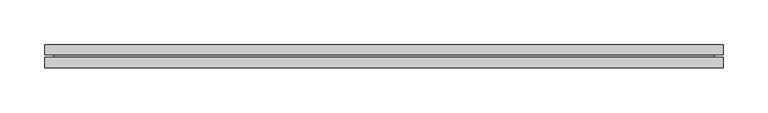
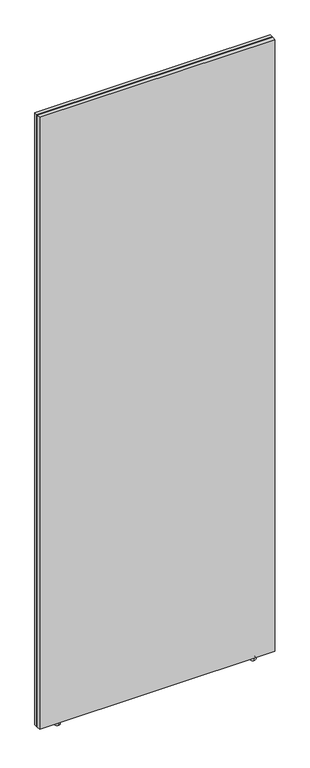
"""IFC4 building model written with IfcOpenShell, lengths in millimetres: furniture geometry, Geiger_GeigerOneCasegoods_WallFrameStandardApplication : 30Wx1Dx82.5H."""

from ifc_helpers import new_model, si_unit, point, frame, origin, place, context, project, spatial, circle_curve, ellipse_curve, trimmed, faceted_brep, source, transform, mapped, element, save
from ifc_brep_helpers import plane_surface, cylinder_surface, revolved_surface, advanced_brep


def furniture_ab4901f7(model_context):
    return source(origin(), model_context, "Body", "SolidModel", [
        faceted_brep([(762.0, -26.0, 12.7), (762.0, -26.0, 2108.2), (0.0, -26.0, 2108.2), (0.0, -26.0, 12.7), (762.0, 0.0, 2108.2), (762.0, 0.0, 12.7), (0.0, 0.0, 12.7), (0.0, 0.0, 2108.2), (762.0, -14.5, 2108.2), (762.0, -14.5, 12.7), (751.0, -11.5, 2097.2), (751.0, -14.5, 2097.2), (751.0, -14.5, 23.7), (751.0, -11.5, 23.7), (762.0, -11.5, 2108.2), (762.0, -11.5, 12.7), (0.0, -14.5, 12.7), (11.0, -14.5, 23.7), (11.0, -11.5, 23.7), (0.0, -11.5, 12.7), (0.0, -14.5, 2108.2), (11.0, -14.5, 2097.2), (11.0, -11.5, 2097.2), (0.0, -11.5, 2108.2)], [[[0, 1, 2, 3]], [[4, 5, 6, 7]], [[8, 1, 0, 9]], [[10, 11, 12, 13]], [[4, 14, 15, 5]], [[9, 0, 3, 16]], [[13, 12, 17, 18]], [[5, 15, 19, 6]], [[16, 3, 2, 20]], [[18, 17, 21, 22]], [[6, 19, 23, 7]], [[1, 8, 20, 2]], [[8, 9, 16, 20], [12, 11, 21, 17]], [[11, 10, 22, 21]], [[15, 14, 23, 19], [10, 13, 18, 22]], [[14, 4, 7, 23]]]),
        advanced_brep(
        [(698.0, -13.0, 0.0), (698.0, -8.2612423, 0.0), (698.0, -17.7387577, 0.0), (698.0, -7.1362597, 9.4), (698.0, -18.8637403, 9.4), (698.0, -5.75, 9.4), (698.0, -20.25, 9.4), (698.0, -5.75, 12.7), (698.0, -20.25, 12.7), (698.0, -13.0, 12.7)],
        [
            (0, 1),
            (1, 2, circle_curve(frame((698.0, -13.0, 0.0), z_axis=(0.0, 0.0, -1.0), x_axis=(0.0, 1.0, 0.0)), 4.7387577)),
            (2, 0),
            (2, 1, circle_curve(frame((698.0, -13.0, 0.0), z_axis=(0.0, 0.0, -1.0), x_axis=(0.0, 1.0, 0.0)), 4.7387577)),
            (1, 3, circle_curve(frame((698.0, -8.2612423, 4.7673184), z_axis=(1.0, 0.0, 0.0), x_axis=(0.0, 1.0, 0.0)), 4.7673184)),
            (3, 4, circle_curve(frame((698.0, -13.0, 9.4), z_axis=(0.0, 0.0, -1.0), x_axis=(0.0, 1.0, 0.0)), 5.8637403)),
            (4, 2, circle_curve(frame((698.0, -17.7387577, 4.7673184), z_axis=(1.0, 0.0, 0.0), x_axis=(0.0, -1.0, 0.0)), 4.7673184)),
            (4, 3, circle_curve(frame((698.0, -13.0, 9.4), z_axis=(0.0, 0.0, -1.0), x_axis=(0.0, 1.0, 0.0)), 5.8637403)),
            (3, 5),
            (5, 6, circle_curve(frame((698.0, -13.0, 9.4), z_axis=(0.0, 0.0, -1.0), x_axis=(0.0, 1.0, 0.0)), 7.25)),
            (6, 4),
            (6, 5, circle_curve(frame((698.0, -13.0, 9.4), z_axis=(0.0, 0.0, -1.0), x_axis=(0.0, 1.0, 0.0)), 7.25)),
            (5, 7),
            (7, 8, circle_curve(frame((698.0, -13.0, 12.7), z_axis=(0.0, 0.0, -1.0), x_axis=(0.0, 1.0, 0.0)), 7.25)),
            (8, 6),
            (8, 7, circle_curve(frame((698.0, -13.0, 12.7), z_axis=(0.0, 0.0, -1.0), x_axis=(0.0, 1.0, 0.0)), 7.25)),
            (7, 9),
            (9, 8),
        ],
        [
            plane_surface(frame((698.0, -13.0, 0.0), z_axis=(0.0, 0.0, -1.0), x_axis=(0.0, 1.0, 0.0))),
            revolved_surface(trimmed(ellipse_curve(frame((698.0, -8.2612423, 4.7673184), z_axis=(-1.0, 0.0, 0.0), x_axis=(0.0, 1.0, 0.0)), 4.7673184, 4.7673184), [point((698.0, -7.1362597, 9.4))], [point((698.0, -8.2612423, 0.0))], True, "CARTESIAN"), (698.0, -13.0, 0.0), (0.0, 0.0, -1.0)),
            plane_surface(frame((698.0, -13.0, 9.4), z_axis=(0.0, 0.0, -1.0), x_axis=(0.0, 1.0, 0.0))),
            cylinder_surface(frame((698.0, -13.0, 0.0), z_axis=(0.0, 0.0, -1.0), x_axis=(0.0, 1.0, 0.0)), 7.25),
            plane_surface(frame((698.0, -13.0, 12.7), z_axis=(0.0, 0.0, 1.0), x_axis=(0.0, 1.0, 0.0))),
        ],
        [
            (0, [[1, 2, 3]]),
            (0, [[-3, 4, -1]]),
            (1, [[-2, 5, 6, 7]]),
            (1, [[-4, -7, 8, -5]]),
            (2, [[-6, 9, 10, 11]]),
            (2, [[-8, -11, 12, -9]]),
            (3, [[-10, 13, 14, 15]]),
            (3, [[-12, -15, 16, -13]]),
            (4, [[-14, 17, 18]]),
            (4, [[-16, -18, -17]]),
        ],
    ),
        advanced_brep(
        [(64.0, -17.7387577, 0.0), (64.0, -8.2612423, 0.0), (64.0, -13.0, 0.0), (64.0, -18.8637403, 9.4), (64.0, -7.1362597, 9.4), (64.0, -20.25, 9.4), (64.0, -5.75, 9.4), (64.0, -20.25, 12.7), (64.0, -5.75, 12.7), (64.0, -13.0, 12.7)],
        [
            (0, 1, circle_curve(frame((64.0, -13.0, 0.0), z_axis=(0.0, 0.0, -1.0), x_axis=(0.0, 1.0, 0.0)), 4.7387577)),
            (1, 2),
            (2, 0),
            (1, 0, circle_curve(frame((64.0, -13.0, 0.0), z_axis=(0.0, 0.0, -1.0), x_axis=(0.0, 1.0, 0.0)), 4.7387577)),
            (3, 4, circle_curve(frame((64.0, -13.0, 9.4), z_axis=(0.0, 0.0, -1.0), x_axis=(0.0, 1.0, 0.0)), 5.8637403)),
            (4, 1, circle_curve(frame((64.0, -8.2612423, 4.7673184), z_axis=(-1.0, 0.0, 0.0), x_axis=(0.0, 1.0, 0.0)), 4.7673184)),
            (0, 3, circle_curve(frame((64.0, -17.7387577, 4.7673184), z_axis=(-1.0, 0.0, 0.0), x_axis=(0.0, -1.0, 0.0)), 4.7673184)),
            (4, 3, circle_curve(frame((64.0, -13.0, 9.4), z_axis=(0.0, 0.0, -1.0), x_axis=(0.0, 1.0, 0.0)), 5.8637403)),
            (5, 6, circle_curve(frame((64.0, -13.0, 9.4), z_axis=(0.0, 0.0, -1.0), x_axis=(0.0, 1.0, 0.0)), 7.25)),
            (6, 4),
            (3, 5),
            (6, 5, circle_curve(frame((64.0, -13.0, 9.4), z_axis=(0.0, 0.0, -1.0), x_axis=(0.0, 1.0, 0.0)), 7.25)),
            (7, 8, circle_curve(frame((64.0, -13.0, 12.7), z_axis=(0.0, 0.0, -1.0), x_axis=(0.0, 1.0, 0.0)), 7.25)),
            (8, 6),
            (5, 7),
            (8, 7, circle_curve(frame((64.0, -13.0, 12.7), z_axis=(0.0, 0.0, -1.0), x_axis=(0.0, 1.0, 0.0)), 7.25)),
            (9, 8),
            (7, 9),
        ],
        [
            plane_surface(frame((64.0, -13.0, 0.0), z_axis=(0.0, 0.0, -1.0), x_axis=(0.0, 1.0, 0.0))),
            revolved_surface(trimmed(ellipse_curve(frame((64.0, -8.2612423, 4.7673184), z_axis=(1.0, 0.0, 0.0), x_axis=(0.0, 1.0, 0.0)), 4.7673184, 4.7673184), [point((64.0, -8.2612423, 0.0))], [point((64.0, -7.1362597, 9.4))], True, "CARTESIAN"), (64.0, -13.0, 0.0), (0.0, 0.0, 1.0)),
            plane_surface(frame((64.0, -13.0, 9.4), z_axis=(0.0, 0.0, -1.0), x_axis=(0.0, 1.0, 0.0))),
            cylinder_surface(frame((64.0, -13.0, 0.0), z_axis=(0.0, 0.0, 1.0), x_axis=(0.0, 1.0, 0.0)), 7.25),
            plane_surface(frame((64.0, -13.0, 12.7), z_axis=(0.0, 0.0, 1.0), x_axis=(0.0, 1.0, 0.0))),
        ],
        [
            (0, [[1, 2, 3]]),
            (0, [[4, -3, -2]]),
            (1, [[5, 6, -1, 7]]),
            (1, [[8, -7, -4, -6]]),
            (2, [[9, 10, -5, 11]]),
            (2, [[12, -11, -8, -10]]),
            (3, [[13, 14, -9, 15]]),
            (3, [[16, -15, -12, -14]]),
            (4, [[17, -13, 18]]),
            (4, [[-18, -16, -17]]),
        ],
    ),
    ])


if __name__ == "__main__":
    model = new_model("IFC4")
    model_context = context("Model", 3, world=origin())
    ifc_project = project(units=[si_unit("LENGTHUNIT", "METRE", prefix="MILLI")], contexts=[model_context])
    site = spatial("IfcSite", under=ifc_project)
    building = spatial("IfcBuilding", under=site)
    placement = place(None, origin())
    furniture_shape = furniture_ab4901f7(model_context)
    element("IfcFurniture", 1, ObjectType="Geiger_GeigerOneCasegoods_WallFrameStandardApplication : 30Wx1Dx82.5H", at=placement, inside=building, context=model_context, shape_type="MappedRepresentation", body=[
        mapped(furniture_shape, transform((0.0, 0.0, 0.0), x_axis=(1.0, 0.0, 0.0), y_axis=(0.0, 1.0, 0.0), z_axis=(0.0, 0.0, 1.0))),
    ])
    save(model, "model.ifc")
